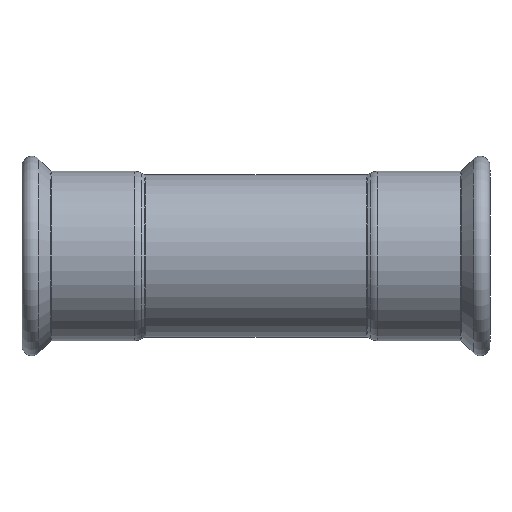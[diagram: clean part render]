
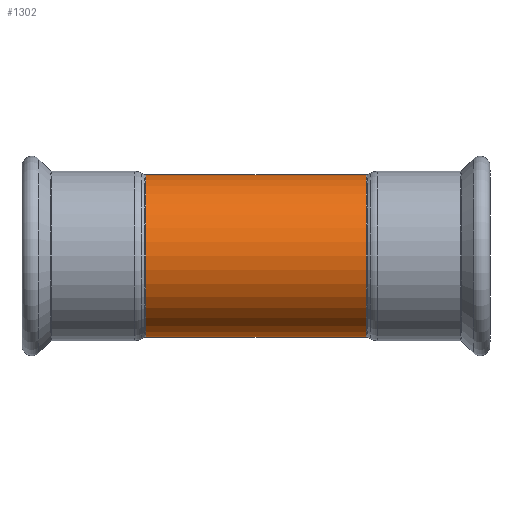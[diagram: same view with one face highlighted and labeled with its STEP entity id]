
A CAD part, front view. The second image highlights one B-rep face of the part: STEP entity #1302.
In plain terms, the highlighted cylindrical face has radius 53.5 mm (diameter 107 mm), a partial arc.
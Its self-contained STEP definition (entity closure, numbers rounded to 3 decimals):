
#45 = CYLINDRICAL_SURFACE ( 'NONE', #2335, 53.5 ) ;
#138 = DIRECTION ( 'NONE',  ( -1., 0., 0. ) ) ;
#144 = EDGE_CURVE ( 'NONE', #2534, #1006, #2341, .T. ) ;
#505 = CARTESIAN_POINT ( 'NONE',  ( 27.146, 0., 53.5 ) ) ;
#567 = DIRECTION ( 'NONE',  ( -1., 0., 0. ) ) ;
#576 = CARTESIAN_POINT ( 'NONE',  ( 27.146, 0., 0. ) ) ;
#700 = LINE ( 'NONE', #505, #3941 ) ;
#839 = CIRCLE ( 'NONE', #3046, 53.5 ) ;
#1006 = VERTEX_POINT ( 'NONE', #3907 ) ;
#1302 = ADVANCED_FACE ( 'NONE', ( #1902 ), #45, .T. ) ;
#1425 = DIRECTION ( 'NONE',  ( 0., 0., 1. ) ) ;
#1449 = EDGE_LOOP ( 'NONE', ( #3034, #3473, #2674, #3455 ) ) ;
#1755 = DIRECTION ( 'NONE',  ( -1., 0., 0. ) ) ;
#1769 = CARTESIAN_POINT ( 'NONE',  ( -72.868, 0., 53.5 ) ) ;
#1901 = VECTOR ( 'NONE', #3180, 1000. ) ;
#1902 = FACE_OUTER_BOUND ( 'NONE', #1449, .T. ) ;
#1946 = EDGE_CURVE ( 'NONE', #3075, #4536, #700, .T. ) ;
#2056 = CARTESIAN_POINT ( 'NONE',  ( 72.868, 0., 53.5 ) ) ;
#2247 = DIRECTION ( 'NONE',  ( -1., 0., 0. ) ) ;
#2278 = CIRCLE ( 'NONE', #4518, 53.5 ) ;
#2335 = AXIS2_PLACEMENT_3D ( 'NONE', #576, #2247, #2703 ) ;
#2341 = LINE ( 'NONE', #3169, #1901 ) ;
#2400 = CARTESIAN_POINT ( 'NONE',  ( 72.868, 0., 0. ) ) ;
#2534 = VERTEX_POINT ( 'NONE', #4501 ) ;
#2674 = ORIENTED_EDGE ( 'NONE', *, *, #1946, .T. ) ;
#2703 = DIRECTION ( 'NONE',  ( 0., 0., 1. ) ) ;
#2847 = EDGE_CURVE ( 'NONE', #2534, #3075, #2278, .T. ) ;
#3034 = ORIENTED_EDGE ( 'NONE', *, *, #144, .F. ) ;
#3046 = AXIS2_PLACEMENT_3D ( 'NONE', #3981, #138, #4331 ) ;
#3075 = VERTEX_POINT ( 'NONE', #2056 ) ;
#3169 = CARTESIAN_POINT ( 'NONE',  ( 27.146, 0., -53.5 ) ) ;
#3180 = DIRECTION ( 'NONE',  ( -1., 0., 0. ) ) ;
#3455 = ORIENTED_EDGE ( 'NONE', *, *, #3497, .F. ) ;
#3473 = ORIENTED_EDGE ( 'NONE', *, *, #2847, .T. ) ;
#3497 = EDGE_CURVE ( 'NONE', #1006, #4536, #839, .T. ) ;
#3907 = CARTESIAN_POINT ( 'NONE',  ( -72.868, 0., -53.5 ) ) ;
#3941 = VECTOR ( 'NONE', #567, 1000. ) ;
#3981 = CARTESIAN_POINT ( 'NONE',  ( -72.868, 0., 0. ) ) ;
#4331 = DIRECTION ( 'NONE',  ( 0., 0., 1. ) ) ;
#4501 = CARTESIAN_POINT ( 'NONE',  ( 72.868, 0., -53.5 ) ) ;
#4518 = AXIS2_PLACEMENT_3D ( 'NONE', #2400, #1755, #1425 ) ;
#4536 = VERTEX_POINT ( 'NONE', #1769 ) ;
